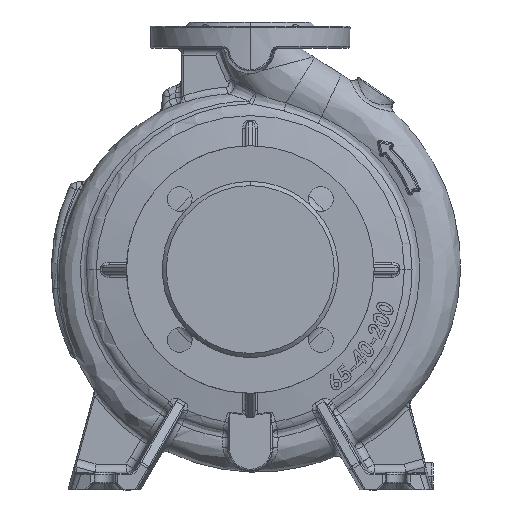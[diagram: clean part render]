
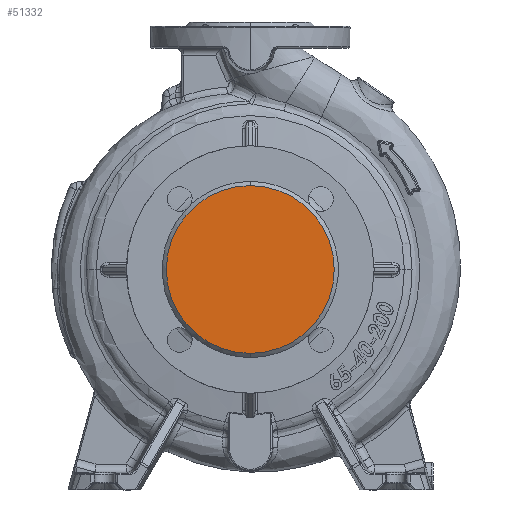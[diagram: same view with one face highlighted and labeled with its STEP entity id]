
A CAD part, top view. The second image highlights one B-rep face of the part: STEP entity #51332.
In plain terms, the highlighted planar face has unit normal (0, 0, 1).
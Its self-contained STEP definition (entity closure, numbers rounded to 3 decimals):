
#1840 = ORIENTED_EDGE ( 'NONE', *, *, #74978, .F. ) ;
#5413 = CARTESIAN_POINT ( 'NONE',  ( 0., 61., 100. ) ) ;
#8820 = EDGE_CURVE ( 'NONE', #31919, #62593, #55881, .T. ) ;
#10803 = CARTESIAN_POINT ( 'NONE',  ( 0., 0., 100. ) ) ;
#15018 = DIRECTION ( 'NONE',  ( 0., 1., 0. ) ) ;
#18291 = CIRCLE ( 'NONE', #39274, 61. ) ;
#20746 = CARTESIAN_POINT ( 'NONE',  ( 0., -61., 100. ) ) ;
#25061 = FACE_OUTER_BOUND ( 'NONE', #34464, .T. ) ;
#27566 = AXIS2_PLACEMENT_3D ( 'NONE', #31749, #51434, #86509 ) ;
#28956 = ORIENTED_EDGE ( 'NONE', *, *, #8820, .F. ) ;
#31749 = CARTESIAN_POINT ( 'NONE',  ( 0., 0., 100. ) ) ;
#31919 = VERTEX_POINT ( 'NONE', #20746 ) ;
#34464 = EDGE_LOOP ( 'NONE', ( #1840, #28956 ) ) ;
#39274 = AXIS2_PLACEMENT_3D ( 'NONE', #61752, #54928, #15018 ) ;
#45357 = DIRECTION ( 'NONE',  ( 0., 1., 0. ) ) ;
#51332 = ADVANCED_FACE ( 'NONE', ( #25061 ), #72783, .F. ) ;
#51434 = DIRECTION ( 'NONE',  ( 0., 0., -1. ) ) ;
#54928 = DIRECTION ( 'NONE',  ( 0., 0., -1. ) ) ;
#55881 = CIRCLE ( 'NONE', #66079, 61. ) ;
#61752 = CARTESIAN_POINT ( 'NONE',  ( 0., 0., 100. ) ) ;
#62593 = VERTEX_POINT ( 'NONE', #5413 ) ;
#64998 = DIRECTION ( 'NONE',  ( 0., 0., -1. ) ) ;
#66079 = AXIS2_PLACEMENT_3D ( 'NONE', #10803, #64998, #45357 ) ;
#72783 = PLANE ( 'NONE',  #27566 ) ;
#74978 = EDGE_CURVE ( 'NONE', #62593, #31919, #18291, .T. ) ;
#86509 = DIRECTION ( 'NONE',  ( 0., 1., 0. ) ) ;
